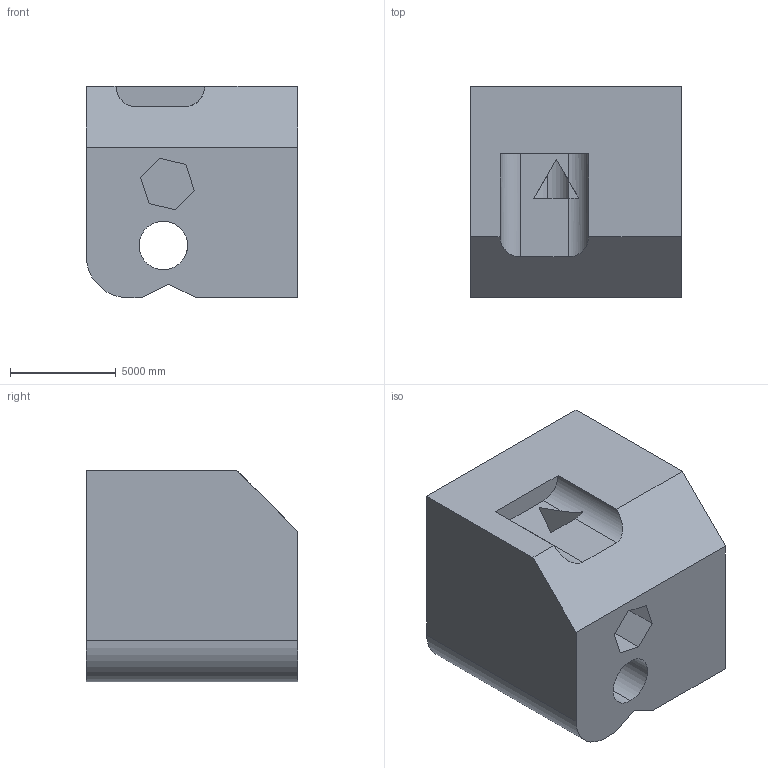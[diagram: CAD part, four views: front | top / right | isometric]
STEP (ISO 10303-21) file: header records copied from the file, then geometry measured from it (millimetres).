
FILE_DESCRIPTION (( 'STEP AP203' ), '1' );
FILE_NAME ('608.STEP', '2022-07-29T12:04:14', ( 'user' ), ( '' ), 'SwSTEP 2.0', 'SolidWorks 2021', '' );
FILE_SCHEMA (( 'CONFIG_CONTROL_DESIGN' ));
Length unit declared in the file: centimetre
Products named in the file (1): 608
Bounding box: 10000 x 10000 x 10000 mm (x, y, z)
Volume: 857679901833.9 mm3; surface area: 697860869.9 mm2
Topology: 1 solids, 1 shells, 28 faces, 81 edges, 54 vertices
Faces by surface type: plane 23, cylinder 5
Entity records: 1001 total; most frequent: CARTESIAN_POINT 182, ORIENTED_EDGE 162, DIRECTION 144, EDGE_CURVE 81, LINE 64, VECTOR 64, VERTEX_POINT 54, AXIS2_PLACEMENT_3D 40
